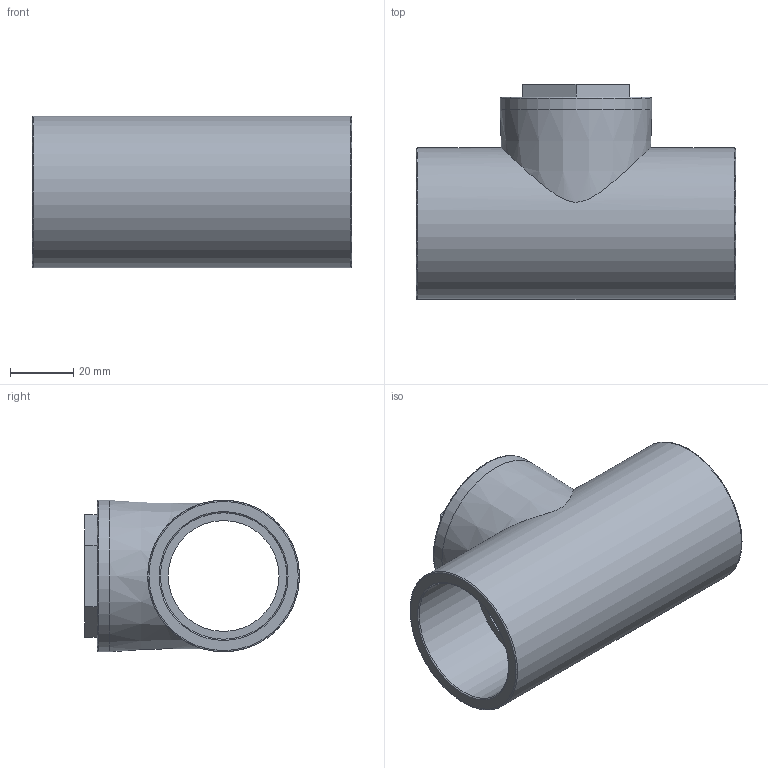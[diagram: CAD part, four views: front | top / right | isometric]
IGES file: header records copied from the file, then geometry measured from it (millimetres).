
Global section: file name: 050408040.ipt; native system: Autodesk Inventor 2015; preprocessor: unknown; author: KIM; date: 20171207.164548; units: millimetre
Bounding box: 101 x 68 x 48 mm (x, y, z)
Volume: 108419.4 mm3; surface area: 32439.4 mm2
Topology: 1 solids, 1 shells, 23 faces, 64 edges, 46 vertices
Faces by surface type: plane 12, revolution 8, cylinder 2, cone 1
Full cylindrical faces by diameter (mm): 48 x2
